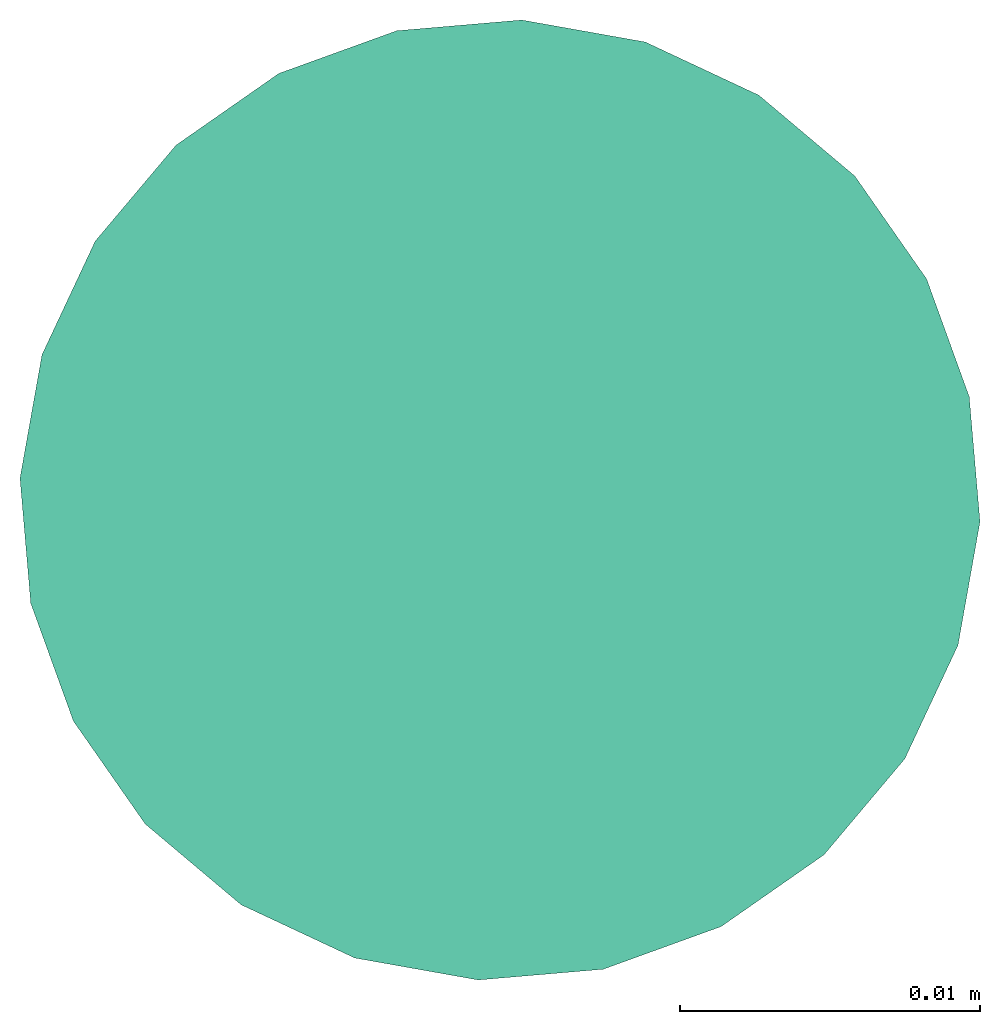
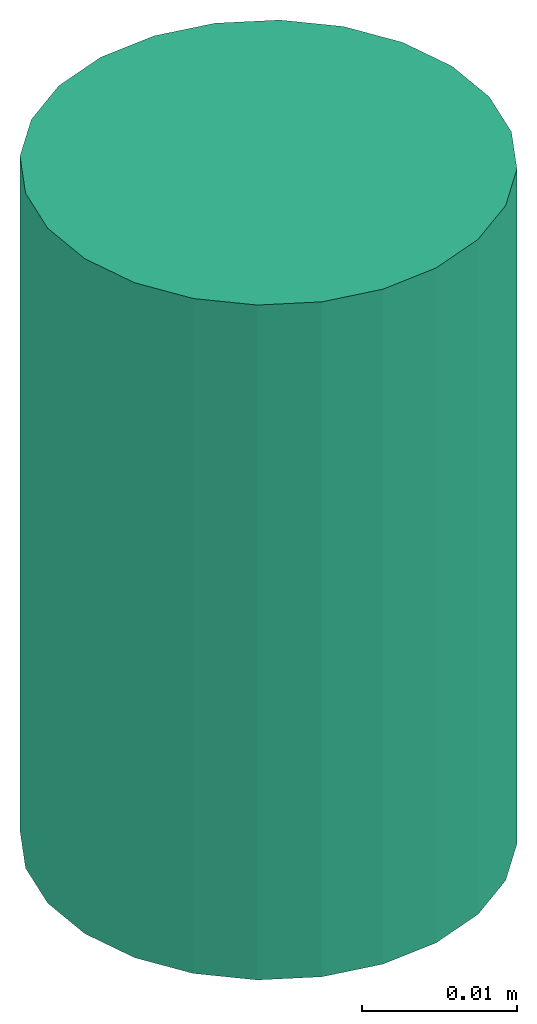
# One storey: 1 flow terminal.
"""IFC2X3 building model written with IfcOpenShell, lengths in millimetres."""

from ifc_helpers import new_model, entity, si_unit, converted_unit, derived_unit, direction, frame, origin, origin_with_axes, place, context, subcontext, project, spatial, open_shell, surface_model, source, transform, mapped, type_object, element, save


model = new_model("IFC2X3")

# Units and contexts
plan_context = context("Plan", 3, precision=1e-05, world=origin_with_axes())
model_context = context("Model", 3, precision=0.01, world=origin(), true_north=direction((6.12323399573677e-17, 1.0)))
body_context = subcontext(model_context, "Body", "Model", "MODEL_VIEW")
ifc_project = project(units=[converted_unit("PLANEANGLEUNIT", "DEGREE", entity("IfcPositiveLengthMeasure", 0.0174532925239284), si_unit("PLANEANGLEUNIT", "RADIAN"), dimensions=[0, 0, 0, 0, 0, 0, 0]), si_unit("AREAUNIT", "SQUARE_METRE"), si_unit("LENGTHUNIT", "METRE", prefix="MILLI"), si_unit("MASSUNIT", "GRAM", prefix="KILO"), si_unit("POWERUNIT", "WATT"), si_unit("PRESSUREUNIT", "PASCAL", prefix="KILO"), si_unit("FORCEUNIT", "NEWTON", prefix="KILO"), si_unit("ELECTRICVOLTAGEUNIT", "VOLT"), si_unit("ELECTRICCURRENTUNIT", "AMPERE"), si_unit("THERMODYNAMICTEMPERATUREUNIT", "DEGREE_CELSIUS"), si_unit("TIMEUNIT", "SECOND"), si_unit("VOLUMEUNIT", "CUBIC_METRE"), derived_unit("LINEARVELOCITYUNIT", [(si_unit("LENGTHUNIT", "METRE"), 1), (si_unit("TIMEUNIT", "SECOND"), -1)]), derived_unit("VOLUMETRICFLOWRATEUNIT", [(si_unit("VOLUMEUNIT", "CUBIC_METRE"), 1), (si_unit("TIMEUNIT", "SECOND"), -1)]), derived_unit("THERMALTRANSMITTANCEUNIT", [(si_unit("POWERUNIT", "WATT"), 1), (si_unit("THERMODYNAMICTEMPERATUREUNIT", "KELVIN"), -1), (si_unit("AREAUNIT", "SQUARE_METRE"), -1)]), derived_unit("SOUNDPRESSUREUNIT", [(si_unit("PRESSUREUNIT", "PASCAL"), 1)])], contexts=[model_context, plan_context])

# Site, building, storey
site_placement = place(None, frame((0.0, 0.0, 0.0), z_axis=(0.0, 0.0, 1.0), x_axis=(0.214788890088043, -0.97666050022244, 0.0)))
site = spatial("IfcSite", under=ifc_project, at=site_placement, Name="ENZV", CompositionType="ELEMENT")
building_placement = place(site_placement, origin_with_axes())
building = spatial("IfcBuilding", under=site, at=building_placement, Name="ZV001", CompositionType="ELEMENT")
storey_placement = place(building_placement, frame((0.0, 0.0, 5100.0), z_axis=(0.0, 0.0, 1.0), x_axis=(1.0, 0.0, 0.0)))
storey = spatial("IfcBuildingStorey", under=building, at=storey_placement, Name="H01", CompositionType="ELEMENT", Elevation=5100.0)

# Flow terminal
fire_suppression_terminal_type = type_object("IfcFireSuppressionTerminalType", Name="SP-15-K80-68DGR-STD", PredefinedType="NOTDEFINED")
shared_shape = source(origin_with_axes(), body_context, "Body", "SurfaceModel", [
    surface_model("IfcShellBasedSurfaceModel", [(4.1411, -15.45481, 53.0), (8.0, -13.85641, 53.0), (11.31371, -11.31371, 53.0), (-8.0, -13.85641, 53.0), (15.45481, -4.1411, 53.0), (16.0, 0.0, 53.0), (13.85641, -8.0, 53.0), (0.0, -16.0, 53.0), (-4.1411, -15.45481, 53.0), (-13.85641, -8.0, 53.0), (-11.31371, -11.31371, 53.0), (-15.45481, -4.1411, 53.0), (15.45481, 4.1411, 53.0), (13.85641, 8.0, 53.0), (11.31371, 11.31371, 53.0), (-4.1411, 15.45481, 53.0), (8.0, 13.85641, 53.0), (4.1411, 15.45481, 53.0), (0.0, 16.0, 53.0), (-13.85641, 8.0, 53.0), (-15.45481, 4.1411, 53.0), (-16.0, 0.0, 53.0), (-11.31371, 11.31371, 53.0), (-8.0, 13.85641, 53.0), (0.0, 16.0, 0.0), (4.1411, 15.45481, 0.0), (8.0, 13.85641, 0.0), (-4.1411, 15.45481, 0.0), (11.31371, 11.31371, 0.0), (13.85641, 8.0, 0.0), (15.45481, 4.1411, 0.0), (-15.45481, -4.1411, 0.0), (-11.31371, 11.31371, 0.0), (-8.0, 13.85641, 0.0), (-13.85641, 8.0, 0.0), (-15.45481, 4.1411, 0.0), (-16.0, 0.0, 0.0), (4.1411, -15.45481, 0.0), (16.0, 0.0, 0.0), (15.45481, -4.1411, 0.0), (13.85641, -8.0, 0.0), (11.31371, -11.31371, 0.0), (8.0, -13.85641, 0.0), (-8.0, -13.85641, 0.0), (-13.85641, -8.0, 0.0), (-11.31371, -11.31371, 0.0), (0.0, -16.0, 0.0), (-4.1411, -15.45481, 0.0)], [open_shell([[[0, 1, 2]], [[3, 0, 2]], [[4, 5, 2]], [[4, 2, 6]], [[3, 2, 5]], [[7, 3, 8]], [[7, 0, 3]], [[3, 9, 10]], [[9, 3, 11]], [[5, 11, 3]], [[5, 12, 11]], [[12, 13, 14]], [[15, 12, 14]], [[16, 17, 18]], [[14, 16, 15]], [[18, 15, 16]], [[11, 19, 20]], [[21, 11, 20]], [[22, 15, 23]], [[15, 22, 19]], [[19, 11, 15]], [[11, 12, 15]], [[24, 25, 26]], [[27, 24, 26]], [[28, 29, 30]], [[27, 26, 28]], [[27, 28, 31]], [[27, 32, 33]], [[32, 27, 34]], [[34, 31, 35]], [[31, 34, 27]], [[35, 31, 36]], [[28, 30, 31]], [[37, 38, 39]], [[37, 39, 40]], [[41, 42, 37]], [[41, 37, 40]], [[38, 37, 43]], [[44, 43, 45]], [[43, 44, 31]], [[43, 46, 47]], [[43, 31, 38]], [[37, 46, 43]], [[38, 31, 30]], [[11, 31, 44]], [[45, 9, 44]], [[3, 43, 47]], [[45, 43, 10]], [[8, 47, 46]], [[31, 21, 36]], [[31, 11, 21]], [[44, 9, 11]], [[45, 10, 9]], [[3, 10, 43]], [[47, 8, 3]], [[46, 7, 8]], [[0, 37, 42]], [[41, 1, 42]], [[6, 40, 39]], [[41, 40, 2]], [[4, 39, 38]], [[37, 0, 7]], [[42, 1, 0]], [[41, 2, 1]], [[40, 6, 2]], [[4, 6, 39]], [[38, 5, 4]], [[37, 7, 46]], [[12, 38, 30]], [[13, 30, 29]], [[16, 26, 25]], [[17, 25, 24]], [[30, 13, 12]], [[12, 5, 38]], [[28, 14, 13]], [[28, 26, 14]], [[14, 26, 16]], [[25, 17, 16]], [[28, 13, 29]], [[24, 18, 17]], [[15, 27, 33]], [[32, 23, 33]], [[19, 34, 35]], [[32, 34, 22]], [[20, 35, 36]], [[27, 15, 18]], [[33, 23, 15]], [[32, 22, 23]], [[34, 19, 22]], [[20, 19, 35]], [[36, 21, 20]], [[27, 18, 24]]])]),
])
flow_terminal_placement = place(storey_placement, frame((-199883.24466, 382356.71696, 3375.252), z_axis=(0.0, 0.0, -1.0), x_axis=(1.0, 0.0, 0.0)))
element("IfcFlowTerminal", 1, at=flow_terminal_placement, inside=storey, type_object=fire_suppression_terminal_type, Name="SP-15-K80-68DGR-STD", context=body_context, shape_type="MappedRepresentation", body=[
    mapped(shared_shape, transform((0.0, 0.0, 0.0), scale=1.0)),
])

save(model, "model.ifc")
